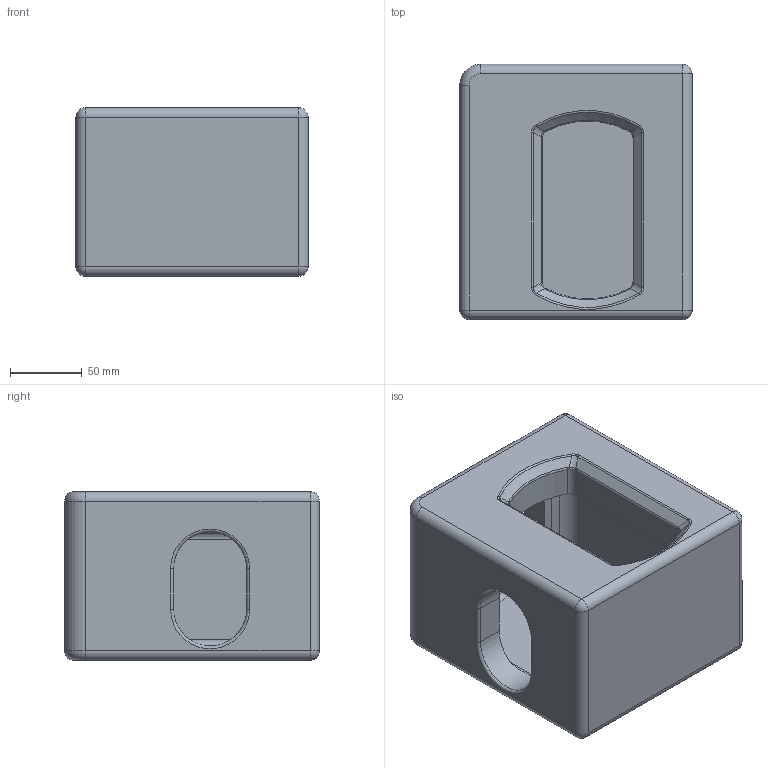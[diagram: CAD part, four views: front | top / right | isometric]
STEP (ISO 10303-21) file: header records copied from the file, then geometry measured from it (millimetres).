
FILE_DESCRIPTION(/* description */ (''),/* implementation_level */ '2;1');
FILE_NAME(/* name */ 'O:\ils2000\Natallia\INVENTOR\AutoCAD stp\NAVACQS\CO-TR.stp',/* time_stamp */ '2018-02-14T16:58:58+01:00',/* author */ ('jori'),/* organization */ (''),/* preprocessor_version */ 'ST-DEVELOPER v16.5',/* originating_system */ 'Autodesk Inventor 2017',/* authorisation */ '');
FILE_SCHEMA (('AUTOMOTIVE_DESIGN { 1 0 10303 214 3 1 1 }'));
Length unit declared in the file: millimetre
Products named in the file (1): CO-TR
Bounding box: 161.9 x 177.8 x 117.5 mm (x, y, z)
Volume: 1367940.9 mm3; surface area: 203951.2 mm2
Topology: 1 solids, 1 shells, 155 faces, 352 edges, 194 vertices
Faces by surface type: cylinder 59, bspline 32, plane 25, torus 18, sphere 18, cone 3
Entity records: 5019 total; most frequent: CARTESIAN_POINT 1595, DIRECTION 744, ORIENTED_EDGE 696, EDGE_CURVE 348, AXIS2_PLACEMENT_3D 313, VERTEX_POINT 194, CIRCLE 173, EDGE_LOOP 158
